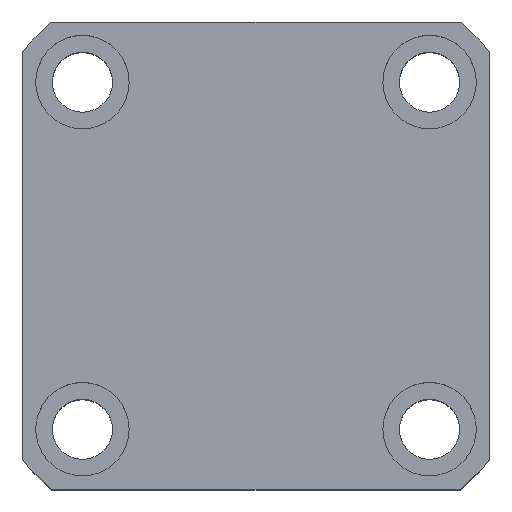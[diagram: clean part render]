
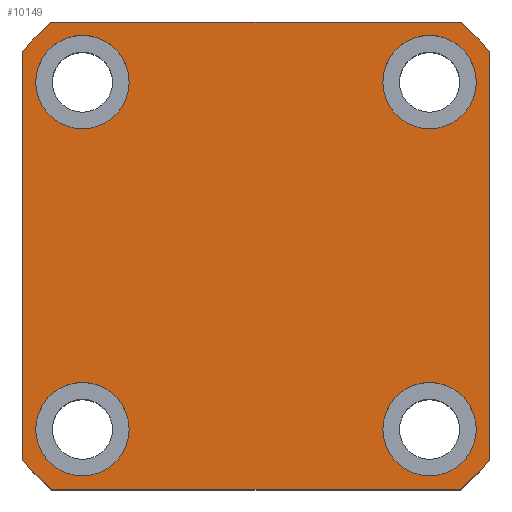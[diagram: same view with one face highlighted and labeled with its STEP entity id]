
A CAD part, top view. The second image highlights one B-rep face of the part: STEP entity #10149.
In plain terms, the highlighted planar face has unit normal (0, 0, 1).
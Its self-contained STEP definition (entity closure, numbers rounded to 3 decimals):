
#97 = DIRECTION ( 'NONE',  ( 1., 0., 0. ) ) ;
#157 = AXIS2_PLACEMENT_3D ( 'NONE', #710, #772, #698 ) ;
#210 = EDGE_CURVE ( 'NONE', #10198, #4965, #4599, .T. ) ;
#216 = AXIS2_PLACEMENT_3D ( 'NONE', #9194, #4532, #9978 ) ;
#366 = VERTEX_POINT ( 'NONE', #8532 ) ;
#385 = VERTEX_POINT ( 'NONE', #4434 ) ;
#419 = CARTESIAN_POINT ( 'NONE',  ( -26., 26., 65. ) ) ;
#441 = DIRECTION ( 'NONE',  ( 0., -1., 0. ) ) ;
#457 = PLANE ( 'NONE',  #7450 ) ;
#495 = AXIS2_PLACEMENT_3D ( 'NONE', #8501, #3812, #9275 ) ;
#551 = DIRECTION ( 'NONE',  ( 0., 0., 1. ) ) ;
#698 = DIRECTION ( 'NONE',  ( 1., 0., 0. ) ) ;
#710 = CARTESIAN_POINT ( 'NONE',  ( 26., -26., 65. ) ) ;
#745 = EDGE_CURVE ( 'NONE', #1821, #4393, #976, .T. ) ;
#749 = AXIS2_PLACEMENT_3D ( 'NONE', #2350, #7850, #3132 ) ;
#772 = DIRECTION ( 'NONE',  ( 0., 0., 1. ) ) ;
#835 = EDGE_LOOP ( 'NONE', ( #9613, #9544 ) ) ;
#921 = CARTESIAN_POINT ( 'NONE',  ( -19., -26., 65. ) ) ;
#976 = CIRCLE ( 'NONE', #8113, 7. ) ;
#994 = ORIENTED_EDGE ( 'NONE', *, *, #745, .F. ) ;
#1222 = DIRECTION ( 'NONE',  ( 1., 0., 0. ) ) ;
#1251 = CARTESIAN_POINT ( 'NONE',  ( 0., 0., 65. ) ) ;
#1271 = DIRECTION ( 'NONE',  ( 0., 0., 1. ) ) ;
#1278 = EDGE_CURVE ( 'NONE', #4393, #1821, #5074, .T. ) ;
#1294 = CARTESIAN_POINT ( 'NONE',  ( 35., 35., 65. ) ) ;
#1383 = DIRECTION ( 'NONE',  ( 1., 0., 0. ) ) ;
#1479 = CIRCLE ( 'NONE', #8131, 46.5 ) ;
#1611 = EDGE_LOOP ( 'NONE', ( #3566, #5846 ) ) ;
#1634 = VERTEX_POINT ( 'NONE', #9269 ) ;
#1796 = DIRECTION ( 'NONE',  ( 0., 0., 1. ) ) ;
#1821 = VERTEX_POINT ( 'NONE', #921 ) ;
#1828 = CARTESIAN_POINT ( 'NONE',  ( -26., -26., 65. ) ) ;
#1833 = ORIENTED_EDGE ( 'NONE', *, *, #6394, .F. ) ;
#1892 = CARTESIAN_POINT ( 'NONE',  ( -30.615, 35., 65. ) ) ;
#1905 = AXIS2_PLACEMENT_3D ( 'NONE', #1828, #1796, #1383 ) ;
#1999 = CIRCLE ( 'NONE', #6560, 7. ) ;
#2029 = CARTESIAN_POINT ( 'NONE',  ( 30.615, -35., 65. ) ) ;
#2044 = ORIENTED_EDGE ( 'NONE', *, *, #2309, .T. ) ;
#2055 = CARTESIAN_POINT ( 'NONE',  ( -30.615, -35., 65. ) ) ;
#2071 = FACE_BOUND ( 'NONE', #10207, .T. ) ;
#2309 = EDGE_CURVE ( 'NONE', #5809, #1634, #8128, .T. ) ;
#2350 = CARTESIAN_POINT ( 'NONE',  ( 26., 26., 65. ) ) ;
#2639 = ORIENTED_EDGE ( 'NONE', *, *, #6542, .T. ) ;
#2666 = DIRECTION ( 'NONE',  ( 1., 0., 0. ) ) ;
#2817 = FACE_BOUND ( 'NONE', #3291, .T. ) ;
#2983 = DIRECTION ( 'NONE',  ( 1., 0., 0. ) ) ;
#3132 = DIRECTION ( 'NONE',  ( 1., 0., 0. ) ) ;
#3190 = VECTOR ( 'NONE', #441, 1000. ) ;
#3291 = EDGE_LOOP ( 'NONE', ( #994, #8644 ) ) ;
#3346 = VERTEX_POINT ( 'NONE', #1892 ) ;
#3357 = LINE ( 'NONE', #3556, #9351 ) ;
#3556 = CARTESIAN_POINT ( 'NONE',  ( -35., 35., 65. ) ) ;
#3566 = ORIENTED_EDGE ( 'NONE', *, *, #6051, .F. ) ;
#3615 = CARTESIAN_POINT ( 'NONE',  ( -26., -26., 65. ) ) ;
#3651 = DIRECTION ( 'NONE',  ( 0., 0., 1. ) ) ;
#3660 = CARTESIAN_POINT ( 'NONE',  ( 35., -30.615, 65. ) ) ;
#3713 = CARTESIAN_POINT ( 'NONE',  ( 0., 0., 65. ) ) ;
#3746 = CARTESIAN_POINT ( 'NONE',  ( 33., 26., 65. ) ) ;
#3812 = DIRECTION ( 'NONE',  ( 0., 0., 1. ) ) ;
#4139 = VERTEX_POINT ( 'NONE', #6717 ) ;
#4238 = VERTEX_POINT ( 'NONE', #2055 ) ;
#4355 = AXIS2_PLACEMENT_3D ( 'NONE', #5335, #551, #6119 ) ;
#4360 = EDGE_CURVE ( 'NONE', #366, #4139, #9190, .T. ) ;
#4393 = VERTEX_POINT ( 'NONE', #6068 ) ;
#4421 = CARTESIAN_POINT ( 'NONE',  ( -35., 35., 65. ) ) ;
#4434 = CARTESIAN_POINT ( 'NONE',  ( -35., 30.615, 65. ) ) ;
#4435 = CARTESIAN_POINT ( 'NONE',  ( 33., -26., 65. ) ) ;
#4483 = DIRECTION ( 'NONE',  ( 0., 0., 1. ) ) ;
#4511 = DIRECTION ( 'NONE',  ( 1., 0., 0. ) ) ;
#4532 = DIRECTION ( 'NONE',  ( 0., 0., 1. ) ) ;
#4599 = CIRCLE ( 'NONE', #157, 7. ) ;
#4819 = CIRCLE ( 'NONE', #216, 7. ) ;
#4884 = DIRECTION ( 'NONE',  ( 0., 0., 1. ) ) ;
#4934 = VERTEX_POINT ( 'NONE', #9009 ) ;
#4965 = VERTEX_POINT ( 'NONE', #4435 ) ;
#5032 = AXIS2_PLACEMENT_3D ( 'NONE', #9540, #4884, #97 ) ;
#5074 = CIRCLE ( 'NONE', #1905, 7. ) ;
#5098 = EDGE_CURVE ( 'NONE', #5716, #5809, #9800, .T. ) ;
#5105 = VERTEX_POINT ( 'NONE', #3746 ) ;
#5221 = LINE ( 'NONE', #5370, #9366 ) ;
#5236 = ORIENTED_EDGE ( 'NONE', *, *, #5820, .T. ) ;
#5293 = CIRCLE ( 'NONE', #9394, 46.5 ) ;
#5335 = CARTESIAN_POINT ( 'NONE',  ( 0., 0., 65. ) ) ;
#5370 = CARTESIAN_POINT ( 'NONE',  ( -35., -35., 65. ) ) ;
#5716 = VERTEX_POINT ( 'NONE', #2029 ) ;
#5739 = EDGE_LOOP ( 'NONE', ( #2044, #7036, #8370, #2639, #8084, #5236, #7922, #6299 ) ) ;
#5755 = EDGE_CURVE ( 'NONE', #385, #4934, #7372, .T. ) ;
#5809 = VERTEX_POINT ( 'NONE', #3660 ) ;
#5813 = AXIS2_PLACEMENT_3D ( 'NONE', #9149, #4483, #9934 ) ;
#5820 = EDGE_CURVE ( 'NONE', #4934, #4238, #5293, .T. ) ;
#5846 = ORIENTED_EDGE ( 'NONE', *, *, #6202, .F. ) ;
#5951 = EDGE_CURVE ( 'NONE', #4965, #10198, #4819, .T. ) ;
#5995 = DIRECTION ( 'NONE',  ( 0., 0., 1. ) ) ;
#6033 = FACE_OUTER_BOUND ( 'NONE', #5739, .T. ) ;
#6043 = CARTESIAN_POINT ( 'NONE',  ( 0., 0., 65. ) ) ;
#6051 = EDGE_CURVE ( 'NONE', #5105, #6591, #8719, .T. ) ;
#6068 = CARTESIAN_POINT ( 'NONE',  ( -33., -26., 65. ) ) ;
#6119 = DIRECTION ( 'NONE',  ( 1., 0., 0. ) ) ;
#6202 = EDGE_CURVE ( 'NONE', #6591, #5105, #10026, .T. ) ;
#6299 = ORIENTED_EDGE ( 'NONE', *, *, #5098, .T. ) ;
#6394 = EDGE_CURVE ( 'NONE', #4139, #366, #1999, .T. ) ;
#6542 = EDGE_CURVE ( 'NONE', #3346, #385, #1479, .T. ) ;
#6560 = AXIS2_PLACEMENT_3D ( 'NONE', #419, #5995, #1222 ) ;
#6591 = VERTEX_POINT ( 'NONE', #9955 ) ;
#6697 = EDGE_CURVE ( 'NONE', #4238, #5716, #5221, .T. ) ;
#6717 = CARTESIAN_POINT ( 'NONE',  ( -19., 26., 65. ) ) ;
#6721 = EDGE_CURVE ( 'NONE', #1634, #8597, #9107, .T. ) ;
#6731 = CARTESIAN_POINT ( 'NONE',  ( 30.615, 35., 65. ) ) ;
#6805 = DIRECTION ( 'NONE',  ( 1., 0., 0. ) ) ;
#6828 = DIRECTION ( 'NONE',  ( 1., 0., 0. ) ) ;
#7036 = ORIENTED_EDGE ( 'NONE', *, *, #6721, .T. ) ;
#7329 = EDGE_CURVE ( 'NONE', #8597, #3346, #3357, .T. ) ;
#7372 = LINE ( 'NONE', #4421, #3190 ) ;
#7450 = AXIS2_PLACEMENT_3D ( 'NONE', #1251, #9104, #6805 ) ;
#7850 = DIRECTION ( 'NONE',  ( 0., 0., 1. ) ) ;
#7922 = ORIENTED_EDGE ( 'NONE', *, *, #6697, .T. ) ;
#8084 = ORIENTED_EDGE ( 'NONE', *, *, #5755, .T. ) ;
#8113 = AXIS2_PLACEMENT_3D ( 'NONE', #3615, #3651, #2666 ) ;
#8117 = FACE_BOUND ( 'NONE', #835, .T. ) ;
#8128 = LINE ( 'NONE', #1294, #8347 ) ;
#8131 = AXIS2_PLACEMENT_3D ( 'NONE', #3713, #9172, #4511 ) ;
#8145 = ORIENTED_EDGE ( 'NONE', *, *, #4360, .F. ) ;
#8347 = VECTOR ( 'NONE', #8416, 1000. ) ;
#8370 = ORIENTED_EDGE ( 'NONE', *, *, #7329, .T. ) ;
#8416 = DIRECTION ( 'NONE',  ( 0., 1., 0. ) ) ;
#8501 = CARTESIAN_POINT ( 'NONE',  ( 0., 0., 65. ) ) ;
#8532 = CARTESIAN_POINT ( 'NONE',  ( -33., 26., 65. ) ) ;
#8597 = VERTEX_POINT ( 'NONE', #6731 ) ;
#8644 = ORIENTED_EDGE ( 'NONE', *, *, #1278, .F. ) ;
#8719 = CIRCLE ( 'NONE', #749, 7. ) ;
#9009 = CARTESIAN_POINT ( 'NONE',  ( -35., -30.615, 65. ) ) ;
#9031 = DIRECTION ( 'NONE',  ( -1., 0., 0. ) ) ;
#9104 = DIRECTION ( 'NONE',  ( 0., 0., 1. ) ) ;
#9107 = CIRCLE ( 'NONE', #495, 46.5 ) ;
#9149 = CARTESIAN_POINT ( 'NONE',  ( -26., 26., 65. ) ) ;
#9172 = DIRECTION ( 'NONE',  ( 0., 0., 1. ) ) ;
#9190 = CIRCLE ( 'NONE', #5813, 7. ) ;
#9194 = CARTESIAN_POINT ( 'NONE',  ( 26., -26., 65. ) ) ;
#9269 = CARTESIAN_POINT ( 'NONE',  ( 35., 30.615, 65. ) ) ;
#9275 = DIRECTION ( 'NONE',  ( 1., 0., 0. ) ) ;
#9351 = VECTOR ( 'NONE', #9031, 1000. ) ;
#9353 = CARTESIAN_POINT ( 'NONE',  ( 19., -26., 65. ) ) ;
#9366 = VECTOR ( 'NONE', #2983, 1000. ) ;
#9394 = AXIS2_PLACEMENT_3D ( 'NONE', #6043, #1271, #6828 ) ;
#9540 = CARTESIAN_POINT ( 'NONE',  ( 26., 26., 65. ) ) ;
#9544 = ORIENTED_EDGE ( 'NONE', *, *, #210, .F. ) ;
#9613 = ORIENTED_EDGE ( 'NONE', *, *, #5951, .F. ) ;
#9800 = CIRCLE ( 'NONE', #4355, 46.5 ) ;
#9934 = DIRECTION ( 'NONE',  ( 1., 0., 0. ) ) ;
#9955 = CARTESIAN_POINT ( 'NONE',  ( 19., 26., 65. ) ) ;
#9978 = DIRECTION ( 'NONE',  ( 1., 0., 0. ) ) ;
#10026 = CIRCLE ( 'NONE', #5032, 7. ) ;
#10149 = ADVANCED_FACE ( 'NONE', ( #2817, #8117, #10156, #2071, #6033 ), #457, .T. ) ;
#10156 = FACE_BOUND ( 'NONE', #1611, .T. ) ;
#10198 = VERTEX_POINT ( 'NONE', #9353 ) ;
#10207 = EDGE_LOOP ( 'NONE', ( #1833, #8145 ) ) ;
